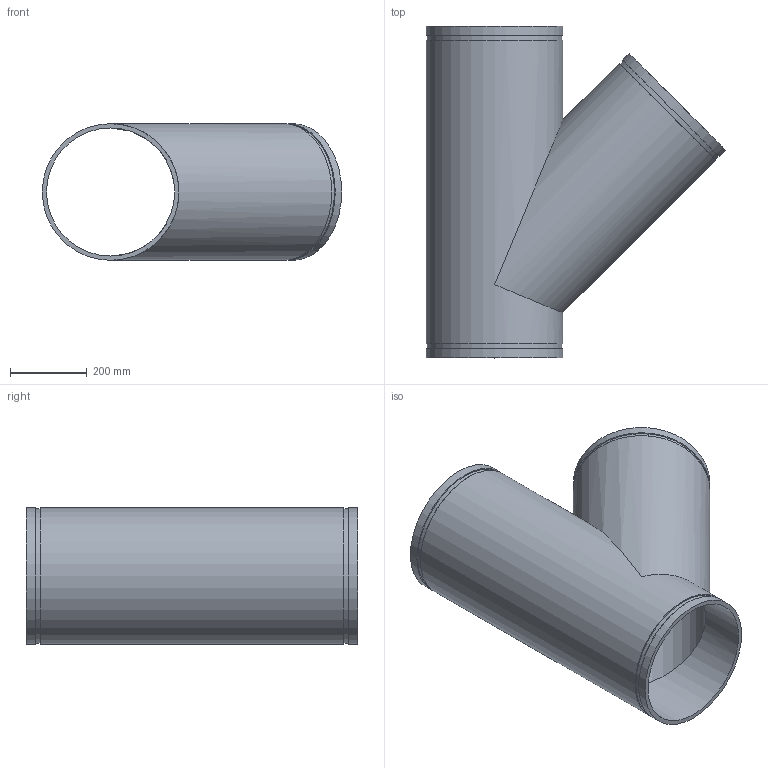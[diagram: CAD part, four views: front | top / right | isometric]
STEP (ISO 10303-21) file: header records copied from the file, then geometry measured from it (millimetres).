
FILE_DESCRIPTION(/* description */ ('VIC 45 DEG FABRICATED LATERAL No 30 SWS (OGS)','CAx-IF Rec.Pracs.---Representation and Presentation of Product Manufacturing Information (PMI)---4.0---2014-10-13'),/* implementation_level */ '2;1');
FILE_NAME(/* name */ 'C:\Users\kkamble\AppData\Roaming\Autodesk\ApplicationPlugins\Back Up\Victaulic_IPS_Lateral 45 Deg_No 30 SWS (OGS)\Victaulic_IPS_Lateral 45 Deg_No 30 SWS (OGS)_14 (350).stp',/* time_stamp */ '2020-09-16T22:21:14+06:00',/* author */ ('cgray'),/* organization */ ('Victaulic'),/* preprocessor_version */ 'ST-DEVELOPER v17.2',/* originating_system */ 'Autodesk Inventor 2019',/* authorisation */ '');
FILE_SCHEMA (('AP242_MANAGED_MODEL_BASED_3D_ENGINEERING_MIM_LF { 1 0 10303 442 1 1 4 }'));
Length unit declared in the file: inch
Products named in the file (1): 30 SWS-14.0
Bounding box: 779.48 x 863.6 x 355.6 mm (x, y, z)
Volume: 14615795.4 mm3; surface area: 2708093 mm2
Topology: 1 solids, 1 shells, 19 faces, 45 edges, 34 vertices
Faces by surface type: cylinder 10, plane 9
Full cylindrical faces by diameter (mm): 333.4 x2, 350.037 x3, 355.6 x5
Entity records: 748 total; most frequent: DIRECTION 145, CARTESIAN_POINT 116, ORIENTED_EDGE 90, AXIS2_PLACEMENT_3D 67, EDGE_CURVE 45, VERTEX_POINT 34, EDGE_LOOP 29, CIRCLE 27
